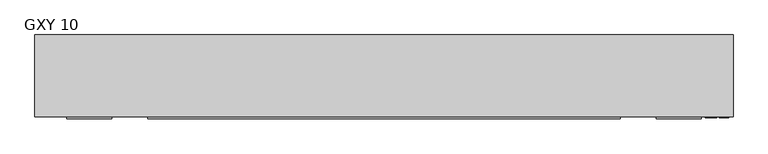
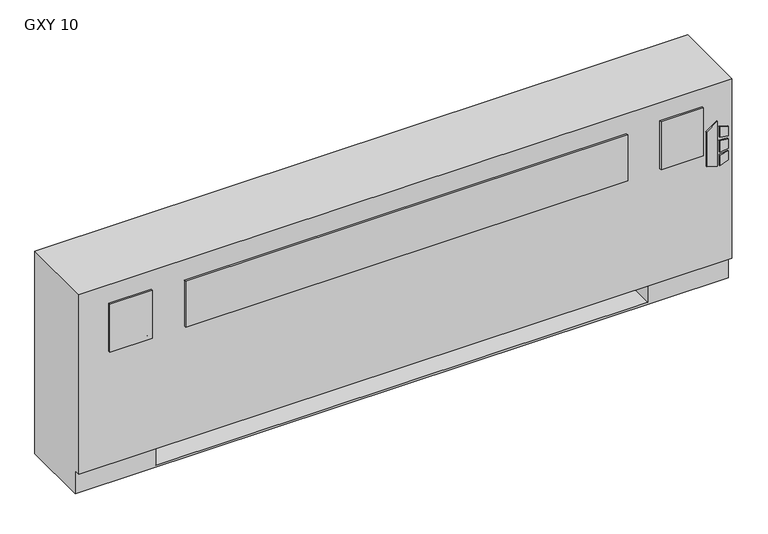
"""IFC4 building model written with IfcOpenShell, lengths in millimetres: proxy geometry, Vertical_Fan_Coil_Unit_-_GXY_-_IEC_-_2-Pipe_FS-FR_LH_2022 : GXY 10."""

import ifcopenshell
import ifcopenshell.guid

model = None  # the IFC model being written
_history = None  # IfcOwnerHistory: only IFC2X3 demands one
_inside = {}  # id of a spatial element -> (the spatial element, [elements in it])
_under = {}  # id of a project, library or spatial element -> (it, [spatial elements below it])
_declared = {}  # id of a project -> (the project, [libraries it declares])
_typed = {}  # id of a type object -> (the type object, [elements of that type])
_made_of = {}  # id of a material, layer set ... -> (it, [elements and type objects made of it])


def new_model(schema):
    """Start an empty IFC model of exactly this schema.

    Asked for "IFC4X3", IfcOpenShell would pick the latest addendum, in which some entities
    have other attributes; the version numbers below select the first issue.
    IFC2X3 requires an IfcOwnerHistory on every rooted entity: one is made here for all.
    """
    global model, _history
    if schema == "IFC4X3":
        model = ifcopenshell.file(schema_version=(4, 3, 0, 0))
    else:
        model = ifcopenshell.file(schema=schema)
    _inside.clear()
    _under.clear()
    _declared.clear()
    _typed.clear()
    _made_of.clear()
    _history = None
    if model.schema == "IFC2X3":
        org = make("IfcOrganization", Name="unknown")
        user = make(
            "IfcPersonAndOrganization",
            ThePerson=make("IfcPerson", FamilyName="unknown"),
            TheOrganization=org,
        )
        app = make(
            "IfcApplication",
            ApplicationDeveloper=org,
            Version="unknown",
            ApplicationFullName="unknown",
            ApplicationIdentifier="unknown",
        )
        _history = make(
            "IfcOwnerHistory",
            OwningUser=user,
            OwningApplication=app,
            ChangeAction="ADDED",
            CreationDate=0,
        )
    return model


def make(cls, **values):
    """One entity of the class cls with the attributes given. An attribute that is None is left unset."""
    return model.create_entity(
        cls, **{name: value for name, value in values.items() if value is not None}
    )


def rooted(cls, **values):
    """An entity with a GlobalId (a new one), such as an element, a storey or a relation."""
    return make(cls, GlobalId=ifcopenshell.guid.new(), OwnerHistory=_history, **values)


def si_unit(unit_type, name, prefix=None):
    """IfcSIUnit, for example si_unit("LENGTHUNIT", "METRE", prefix="MILLI")."""
    return make("IfcSIUnit", UnitType=unit_type, Prefix=prefix, Name=name)


def assignment(units):
    """IfcUnitAssignment: the units of a project."""
    return None if units is None else make("IfcUnitAssignment", Units=units)


def point(xyz):
    """IfcCartesianPoint."""
    return None if xyz is None else make("IfcCartesianPoint", Coordinates=xyz)


def direction(xyz):
    """IfcDirection."""
    return None if xyz is None else make("IfcDirection", DirectionRatios=xyz)


def frame(location, z_axis=None, x_axis=None):
    """IfcAxis2Placement3D, a coordinate frame: its origin and axes. An axis left out is left unset."""
    return make(
        "IfcAxis2Placement3D",
        Location=point(location),
        Axis=direction(z_axis),
        RefDirection=direction(x_axis),
    )


def frame_2d(location, x_axis=None):
    """IfcAxis2Placement2D, a coordinate frame in the plane: its origin and x axis."""
    return make(
        "IfcAxis2Placement2D", Location=point(location), RefDirection=direction(x_axis)
    )


def origin():
    """The frame at (0, 0, 0) with its axes left unset."""
    return frame((0.0, 0.0, 0.0))


def place(relative_to, where):
    """IfcLocalPlacement: puts the frame where relative to a parent placement (None: the world)."""
    return make(
        "IfcLocalPlacement", PlacementRelTo=relative_to, RelativePlacement=where
    )


def context(
    kind, dimensions, precision=None, world=None, true_north=None, identifier=None
):
    """IfcGeometricRepresentationContext, for example the 3D "Model" context."""
    return make(
        "IfcGeometricRepresentationContext",
        ContextIdentifier=identifier,
        ContextType=kind,
        CoordinateSpaceDimension=dimensions,
        Precision=precision,
        WorldCoordinateSystem=world,
        TrueNorth=true_north,
    )


def project(units=None, contexts=None):
    """IfcProject with its units and contexts."""
    return rooted(
        "IfcProject",
        Name="project",
        RepresentationContexts=contexts,
        UnitsInContext=assignment(units),
    )


def spatial(cls, under=None, at=None, **own):
    """A site, building, storey or space (cls), placed at a placement, below another one or the project."""
    s = rooted(cls, ObjectPlacement=at, **own)
    if under is not None:
        _under.setdefault(under.id(), (under, []))[1].append(s)
    return s


def polyline(points):
    """IfcPolyline through the points."""
    return make("IfcPolyline", Points=[point(p) for p in points])


def circle_curve(where, radius):
    """IfcCircle in the frame where."""
    return make("IfcCircle", Position=where, Radius=radius)


def trimmed(basis, trim1, trim2, sense, master):
    """IfcTrimmedCurve: the piece of a basis curve between two trims."""
    return make(
        "IfcTrimmedCurve",
        BasisCurve=basis,
        Trim1=trim1,
        Trim2=trim2,
        SenseAgreement=sense,
        MasterRepresentation=master,
    )


def segment(curve, same_sense, transition):
    """IfcCompositeCurveSegment."""
    return make(
        "IfcCompositeCurveSegment",
        Transition=transition,
        SameSense=same_sense,
        ParentCurve=curve,
    )


def composite_curve(segments, self_intersect=None):
    """IfcCompositeCurve: segments joined end to end."""
    return make("IfcCompositeCurve", Segments=segments, SelfIntersect=self_intersect)


def outline(outer, holes=None, kind="AREA"):
    """IfcArbitraryClosedProfileDef: a profile drawn as a closed curve; with holes, ...WithVoids."""
    if holes is None:
        return make("IfcArbitraryClosedProfileDef", ProfileType=kind, OuterCurve=outer)
    return make(
        "IfcArbitraryProfileDefWithVoids",
        ProfileType=kind,
        OuterCurve=outer,
        InnerCurves=holes,
    )


def extrude(swept, where, along, depth):
    """IfcExtrudedAreaSolid: the profile swept, set in the frame where, extruded along a direction by depth."""
    return make(
        "IfcExtrudedAreaSolid",
        SweptArea=swept,
        Position=where,
        ExtrudedDirection=direction(along),
        Depth=depth,
    )


def shape(context_of_items, identifier, shape_type, items):
    """IfcShapeRepresentation: the items that make up one representation, for example the "Body"."""
    return make(
        "IfcShapeRepresentation",
        ContextOfItems=context_of_items,
        RepresentationIdentifier=identifier,
        RepresentationType=shape_type,
        Items=items,
    )


def source(mapping_origin, context_of_items, identifier, shape_type, items):
    """IfcRepresentationMap: a shape defined once, which mapped items show again and again."""
    return make(
        "IfcRepresentationMap",
        MappingOrigin=mapping_origin,
        MappedRepresentation=shape(context_of_items, identifier, shape_type, items),
    )


def transform(
    local_origin,
    x_axis=None,
    y_axis=None,
    z_axis=None,
    scale=None,
    scale2=None,
    scale3=None,
    uniform=True,
):
    """IfcCartesianTransformationOperator3D, or its non-uniform kind. x_axis, y_axis, z_axis: its Axis1, 2, 3."""
    if uniform:
        return make(
            "IfcCartesianTransformationOperator3D",
            Axis1=direction(x_axis),
            Axis2=direction(y_axis),
            LocalOrigin=point(local_origin),
            Scale=scale,
            Axis3=direction(z_axis),
        )
    return make(
        "IfcCartesianTransformationOperator3DnonUniform",
        Axis1=direction(x_axis),
        Axis2=direction(y_axis),
        LocalOrigin=point(local_origin),
        Scale=scale,
        Axis3=direction(z_axis),
        Scale2=scale2,
        Scale3=scale3,
    )


def mapped(mapping_source, mapping_target):
    """IfcMappedItem: shows the shape of a source again, moved by a transform."""
    return make(
        "IfcMappedItem", MappingSource=mapping_source, MappingTarget=mapping_target
    )


def made_of(thing, what):
    """Note that an element or type object is made of a material, layer set ...; save() writes the relation."""
    if what is not None:
        _made_of.setdefault(what.id(), (what, []))[1].append(thing)
    return thing


def element(
    cls,
    number,
    at=None,
    inside=None,
    cuts=None,
    type_object=None,
    material=None,
    context=None,
    identifier="Body",
    shape_type=None,
    held_by="IfcProductDefinitionShape",
    body=None,
    shapes=None,
    **own,
):
    """One element of the class cls, such as IfcWall. Its Tag is "e" and its number.

    at: its placement. inside: the storey or other place that contains it. cuts: it is an
    opening in that element (IfcRelVoidsElement). A single representation is given by context,
    identifier, shape_type and body (its items); several are given by shapes. held_by: the class
    of the entity that holds the representations. save() writes the other relations.
    """
    e = rooted(cls, Tag="e%d" % number, ObjectPlacement=at, **own)
    if body is not None:
        shapes = [shape(context, identifier, shape_type, body)]
    if shapes is not None:
        e.Representation = make(held_by, Representations=shapes)
    if inside is not None:
        _inside.setdefault(inside.id(), (inside, []))[1].append(e)
    if cuts is not None:
        rooted(
            "IfcRelVoidsElement", RelatingBuildingElement=cuts, RelatedOpeningElement=e
        )
    if type_object is not None:
        _typed.setdefault(type_object.id(), (type_object, []))[1].append(e)
    return made_of(e, material)


def aggregate(whole, parts):
    """IfcRelAggregates: a whole, such as a stair, and the parts it consists of."""
    return rooted("IfcRelAggregates", RelatingObject=whole, RelatedObjects=parts)


def save(model, path):
    """Write the relations noted so far, then the file.

    IfcRelAggregates (storeys below a building ...), IfcRelContainedInSpatialStructure (elements
    in a storey), IfcRelDefinesByType, IfcRelAssociatesMaterial and IfcRelDeclares: one each for
    every whole, place, type object, material and project.
    """
    for whole, parts in _under.values():
        aggregate(whole, parts)
    for where, things in _inside.values():
        rooted(
            "IfcRelContainedInSpatialStructure",
            RelatedElements=things,
            RelatingStructure=where,
        )
    for kind, things in _typed.values():
        rooted("IfcRelDefinesByType", RelatedObjects=things, RelatingType=kind)
    for what, things in _made_of.values():
        rooted("IfcRelAssociatesMaterial", RelatedObjects=things, RelatingMaterial=what)
    for by, libraries in _declared.values():
        rooted("IfcRelDeclares", RelatingContext=by, RelatedDefinitions=libraries)
    model.write(path)


def plane_surface(at):
    """IfcPlane: the flat surface through the origin of the frame at, square to its z axis."""
    return make("IfcPlane", Position=at)


def revolved_surface(curve, axis_point, axis_direction):
    """IfcSurfaceOfRevolution: the curve turned about the line through axis_point along axis_direction."""
    return make(
        "IfcSurfaceOfRevolution",
        SweptCurve=make("IfcArbitraryOpenProfileDef", ProfileType="CURVE", Curve=curve),
        AxisPosition=make("IfcAxis1Placement", Location=point(axis_point), Axis=direction(axis_direction)),
    )


def advanced_brep(points, edges, surfaces, faces):
    """IfcAdvancedBrep: a solid bounded by faces that lie on surfaces and meet in shared edges.

    An edge is (start, end): straight between two places in points (the first is 0);
    or (start, end, curve); or (start, end, curve, False) where it runs against its curve.
    A face is (place in surfaces, loops), or (place, loops, False) where it looks against
    its surface's normal. A loop lists edges by number (the first is 1), with a minus sign
    where the edge is run from its end to its start. The first loop is the outer one.
    """
    corners = [point(p) for p in points]
    vertices = [make("IfcVertexPoint", VertexGeometry=c) for c in corners]
    made = []
    for start, end, *more in edges:
        made.append(
            make(
                "IfcEdgeCurve",
                EdgeStart=vertices[start],
                EdgeEnd=vertices[end],
                EdgeGeometry=more[0] if more else make("IfcPolyline", Points=[corners[start], corners[end]]),
                SameSense=more[1] if len(more) > 1 else True,
            )
        )
    hull = []
    for where, loops, *sense in faces:
        bounds = []
        for j, loop in enumerate(loops):
            ring = [make("IfcOrientedEdge", EdgeElement=made[abs(k) - 1], Orientation=k > 0) for k in loop]
            bounds.append(
                make(
                    "IfcFaceOuterBound" if j == 0 else "IfcFaceBound",
                    Bound=make("IfcEdgeLoop", EdgeList=ring),
                    Orientation=True,
                )
            )
        hull.append(make("IfcAdvancedFace", Bounds=bounds, FaceSurface=surfaces[where], SameSense=sense[0] if sense else True))
    return make("IfcAdvancedBrep", Outer=make("IfcClosedShell", CfsFaces=hull))


def gxy_10_e6496b14(model_context):
    return source(origin(), model_context, "Body", "SolidModel", [
        extrude(outline(polyline([(391.6086829, 1052.5868862), (381.6606126, 1084.7602728), (523.831537, 1084.7602728), (500.8095309, 1052.5868862), (391.6086829, 1052.5868862)])), frame((0.0, 12.7, 0.0), z_axis=(0.0, 1.0, 0.0), x_axis=(0.0, 0.0, 1.0)), (0.0, 0.0, 1.0), 3.175),
        extrude(outline(polyline([(470.6079683, 1091.5186058), (467.4055757, 1117.6), (496.6344168, 1117.6), (504.6988318, 1091.5186058), (470.6079683, 1091.5186058)])), frame((0.0, 12.7, 0.0), z_axis=(0.0, 1.0, 0.0), x_axis=(0.0, 0.0, 1.0)), (0.0, 0.0, 1.0), 3.175),
        extrude(outline(polyline([(418.7444414, 1117.6), (415.0789404, 1091.5186058), (381.6606126, 1091.5186058), (390.2948498, 1117.6), (418.7444414, 1117.6)])), frame((0.0, 12.7, 0.0), z_axis=(0.0, 1.0, 0.0), x_axis=(0.0, 0.0, 1.0)), (0.0, 0.0, 1.0), 3.175),
        extrude(outline(polyline([(458.0596028, 1117.6), (460.3414292, 1091.5186058), (424.4038806, 1091.5186058), (427.1451456, 1117.6), (458.0596028, 1117.6)])), frame((0.0, 12.7, 0.0), z_axis=(0.0, 1.0, 0.0), x_axis=(0.0, 0.0, 1.0)), (0.0, 0.0, 1.0), 3.175),
        extrude(outline(polyline([(-609.6, 9.525), (-736.6, 9.525), (-736.6, 15.875), (-609.6, 15.875), (-609.6, 9.525)])), frame((0.0, 0.0, 431.8), z_axis=(0.0, 0.0, 1.0), x_axis=(1.0, 0.0, 0.0)), (0.0, 0.0, 1.0), 152.4),
        extrude(outline(polyline([(814.3875, 9.525), (-509.5875, 9.525), (-509.5875, 15.875), (814.3875, 15.875), (814.3875, 9.525)])), frame((0.0, 0.0, 431.8), z_axis=(0.0, 0.0, 1.0), x_axis=(1.0, 0.0, 0.0)), (0.0, 0.0, 1.0), 146.05),
        extrude(outline(polyline([(1041.4, 9.525), (914.4, 9.525), (914.4, 15.875), (1041.4, 15.875), (1041.4, 9.525)])), frame((0.0, 0.0, 431.8), z_axis=(0.0, 0.0, 1.0), x_axis=(1.0, 0.0, 0.0)), (0.0, 0.0, 1.0), 152.4),
        extrude(outline(polyline([(889.0, 81.534), (889.0, 223.266), (1009.65, 223.266), (1009.65, 81.534), (889.0, 81.534)])), frame((0.0, 0.0, 327.025), z_axis=(0.0, 0.0, 1.0), x_axis=(1.0, 0.0, 0.0)), (0.0, 0.0, 1.0), 260.35),
        extrude(outline(composite_curve([segment(trimmed(circle_curve(frame_2d((78.9432, 398.5514)), 7.9375), [point((78.9432, 406.4889))], [point((78.9432, 390.6139))], False, "CARTESIAN"), True, "CONTINUOUS"), segment(trimmed(circle_curve(frame_2d((78.9432, 398.5514)), 7.9375), [point((78.9432, 390.6139))], [point((78.9432, 406.4889))], False, "CARTESIAN"), True, "CONTINUOUS")], self_intersect=False)), frame((-635.0, 0.0, 0.0), z_axis=(1.0, 0.0, 0.0), x_axis=(0.0, 1.0, 0.0)), (0.0, 0.0, 1.0), 50.8),
        extrude(outline(composite_curve([segment(trimmed(circle_curve(frame_2d((155.9052, 537.3878)), 7.9375), [point((155.9052, 545.3253))], [point((155.9052, 529.4503))], False, "CARTESIAN"), True, "CONTINUOUS"), segment(trimmed(circle_curve(frame_2d((155.9052, 537.3878)), 7.9375), [point((155.9052, 529.4503))], [point((155.9052, 545.3253))], False, "CARTESIAN"), True, "CONTINUOUS")], self_intersect=False)), frame((-635.0, 0.0, 0.0), z_axis=(1.0, 0.0, 0.0), x_axis=(0.0, 1.0, 0.0)), (0.0, 0.0, 1.0), 50.8),
        advanced_brep(
        [(1130.3, 244.475, 641.35), (-825.5, 244.475, 641.35), (-825.5, 15.875, 641.35), (1130.3, 15.875, 641.35), (-825.5, 244.475, 0.0), (1130.3, 244.475, 0.0), (1130.3, 34.925, 0.0), (-825.5, 34.925, 0.0), (889.0, 244.475, 73.025), (1117.6, 244.475, 73.025), (1117.6, 244.475, 628.65), (889.0, 244.475, 628.65), (889.0, 244.475, 418.0400565), (917.575, 244.475, 418.0400565), (917.575, 244.475, 388.4099435), (889.0, 244.475, 388.4099435), (889.0, 244.475, 290.5125), (917.575, 244.475, 290.5125), (917.575, 244.475, 261.9375), (889.0, 244.475, 261.9375), (889.0, 244.475, 119.0625), (917.575, 244.475, 119.0625), (917.575, 244.475, 90.4875), (889.0, 244.475, 90.4875), (-584.2, 244.475, 628.65), (-812.8, 244.475, 628.65), (-812.8, 244.475, 73.025), (-584.2, 244.475, 73.025), (-584.2, 244.475, 90.4875), (-612.775, 244.475, 90.4875), (-612.775, 244.475, 119.0625), (-584.2, 244.475, 119.0625), (-584.2, 244.475, 261.9375), (-612.775, 244.475, 261.9375), (-612.775, 244.475, 290.5125), (-584.2, 244.475, 290.5125), (-584.2, 244.475, 388.4099435), (-612.775, 244.475, 388.4099435), (-612.775, 244.475, 418.0400565), (-584.2, 244.475, 418.0400565), (907.2626, 244.475, 104.775), (896.1374, 244.475, 104.775), (907.2626, 244.475, 403.225), (896.1374, 244.475, 403.225), (907.2626, 244.475, 276.225), (896.1374, 244.475, 276.225), (-591.3374, 244.475, 104.775), (-602.4626, 244.475, 104.775), (-591.3374, 244.475, 276.225), (-602.4626, 244.475, 276.225), (-591.3374, 244.475, 403.225), (-602.4626, 244.475, 403.225), (-825.5, 34.925, 73.025), (-825.5, 15.875, 73.025), (1130.3, 15.875, 73.025), (1130.3, 34.925, 73.025), (-584.2, 34.925, 73.025), (-584.2, 219.075, 73.025), (889.0, 219.075, 73.025), (889.0, 34.925, 73.025), (889.0, 34.925, 6.35), (-584.2, 34.925, 6.35), (889.0, 41.275, 628.65), (1117.6, 41.275, 628.65), (1117.6, 41.275, 73.025), (889.0, 41.275, 73.025), (-584.2, 41.275, 628.65), (-584.2, 41.275, 73.025), (-812.8, 41.275, 73.025), (-812.8, 41.275, 628.65), (889.0, 219.075, 73.025), (889.0, 238.125, 90.4875), (889.0, 238.125, 119.0625), (889.0, 238.125, 261.9375), (889.0, 238.125, 290.5125), (889.0, 238.125, 388.4099435), (889.0, 238.125, 418.0400565), (-584.2, 219.075, 73.025), (-584.2, 238.125, 418.0400565), (-584.2, 238.125, 388.4099435), (-584.2, 238.125, 290.5125), (-584.2, 238.125, 261.9375), (-584.2, 238.125, 119.0625), (-584.2, 238.125, 90.4875), (-584.2, 219.075, 6.35), (889.0, 219.075, 6.35), (917.575, 238.125, 90.4875), (917.575, 238.125, 119.0625), (896.1374, 238.125, 104.775), (907.2626, 238.125, 104.775), (917.575, 238.125, 261.9375), (917.575, 238.125, 290.5125), (896.1374, 238.125, 276.225), (907.2626, 238.125, 276.225), (917.575, 238.125, 388.4099435), (917.575, 238.125, 418.0400565), (896.1374, 238.125, 403.225), (907.2626, 238.125, 403.225), (-612.775, 238.125, 119.0625), (-612.775, 238.125, 90.4875), (-602.4626, 238.125, 104.775), (-591.3374, 238.125, 104.775), (-612.775, 238.125, 290.5125), (-612.775, 238.125, 261.9375), (-602.4626, 238.125, 276.225), (-591.3374, 238.125, 276.225), (-612.775, 238.125, 418.0400565), (-612.775, 238.125, 388.4099435), (-602.4626, 238.125, 403.225), (-591.3374, 238.125, 403.225)],
        [
            (0, 1),
            (1, 2),
            (2, 3),
            (3, 0),
            (4, 5),
            (5, 6),
            (6, 7),
            (7, 4),
            (0, 5),
            (4, 1),
            (8, 9),
            (9, 10),
            (10, 11),
            (11, 12),
            (12, 13),
            (13, 14),
            (14, 15),
            (15, 16),
            (16, 17),
            (17, 18),
            (18, 19),
            (19, 20),
            (20, 21),
            (21, 22),
            (22, 23),
            (23, 8),
            (24, 25),
            (25, 26),
            (26, 27),
            (27, 28),
            (28, 29),
            (29, 30),
            (30, 31),
            (31, 32),
            (32, 33),
            (33, 34),
            (34, 35),
            (35, 36),
            (36, 37),
            (37, 38),
            (38, 39),
            (39, 24),
            (40, 41, circle_curve(frame((901.7, 244.475, 104.775), z_axis=(0.0, -1.0, 0.0), x_axis=(-1.0, 0.0, 0.0)), 5.5626)),
            (41, 40, circle_curve(frame((901.7, 244.475, 104.775), z_axis=(0.0, -1.0, 0.0), x_axis=(-1.0, 0.0, 0.0)), 5.5626)),
            (42, 43, circle_curve(frame((901.7, 244.475, 403.225), z_axis=(0.0, -1.0, 0.0), x_axis=(-1.0, 0.0, 0.0)), 5.5626)),
            (43, 42, circle_curve(frame((901.7, 244.475, 403.225), z_axis=(0.0, -1.0, 0.0), x_axis=(-1.0, 0.0, 0.0)), 5.5626)),
            (44, 45, circle_curve(frame((901.7, 244.475, 276.225), z_axis=(0.0, -1.0, 0.0), x_axis=(-1.0, 0.0, 0.0)), 5.5626)),
            (45, 44, circle_curve(frame((901.7, 244.475, 276.225), z_axis=(0.0, -1.0, 0.0), x_axis=(-1.0, 0.0, 0.0)), 5.5626)),
            (46, 47, circle_curve(frame((-596.9, 244.475, 104.775), z_axis=(0.0, -1.0, 0.0), x_axis=(-1.0, 0.0, 0.0)), 5.5626)),
            (47, 46, circle_curve(frame((-596.9, 244.475, 104.775), z_axis=(0.0, -1.0, 0.0), x_axis=(-1.0, 0.0, 0.0)), 5.5626)),
            (48, 49, circle_curve(frame((-596.9, 244.475, 276.225), z_axis=(0.0, -1.0, 0.0), x_axis=(-1.0, 0.0, 0.0)), 5.5626)),
            (49, 48, circle_curve(frame((-596.9, 244.475, 276.225), z_axis=(0.0, -1.0, 0.0), x_axis=(-1.0, 0.0, 0.0)), 5.5626)),
            (50, 51, circle_curve(frame((-596.9, 244.475, 403.225), z_axis=(0.0, -1.0, 0.0), x_axis=(-1.0, 0.0, 0.0)), 5.5626)),
            (51, 50, circle_curve(frame((-596.9, 244.475, 403.225), z_axis=(0.0, -1.0, 0.0), x_axis=(-1.0, 0.0, 0.0)), 5.5626)),
            (7, 52),
            (52, 53),
            (53, 2),
            (53, 54),
            (54, 3),
            (54, 55),
            (55, 6),
            (52, 56),
            (56, 57),
            (57, 58),
            (58, 59),
            (59, 55),
            (59, 60),
            (60, 61),
            (61, 56),
            (62, 63),
            (63, 64),
            (64, 65),
            (65, 62),
            (66, 67),
            (67, 68),
            (68, 69),
            (69, 66),
            (65, 70),
            (70, 8),
            (23, 71),
            (71, 72),
            (72, 20),
            (19, 73),
            (73, 74),
            (74, 16),
            (15, 75),
            (75, 76),
            (76, 12),
            (11, 62),
            (64, 9),
            (63, 10),
            (69, 25),
            (24, 66),
            (68, 26),
            (67, 77),
            (77, 27),
            (39, 78),
            (78, 79),
            (79, 36),
            (35, 80),
            (80, 81),
            (81, 32),
            (31, 82),
            (82, 83),
            (83, 28),
            (57, 84),
            (84, 85),
            (85, 58),
            (85, 60),
            (84, 61),
            (71, 86),
            (86, 87),
            (87, 72),
            (88, 89, circle_curve(frame((901.7, 238.125, 104.775), z_axis=(0.0, 1.0, 0.0), x_axis=(-1.0, 0.0, 0.0)), 5.5626)),
            (89, 88, circle_curve(frame((901.7, 238.125, 104.775), z_axis=(0.0, 1.0, 0.0), x_axis=(-1.0, 0.0, 0.0)), 5.5626)),
            (73, 90),
            (90, 91),
            (91, 74),
            (92, 93, circle_curve(frame((901.7, 238.125, 276.225), z_axis=(0.0, 1.0, 0.0), x_axis=(-1.0, 0.0, 0.0)), 5.5626)),
            (93, 92, circle_curve(frame((901.7, 238.125, 276.225), z_axis=(0.0, 1.0, 0.0), x_axis=(-1.0, 0.0, 0.0)), 5.5626)),
            (75, 94),
            (94, 95),
            (95, 76),
            (96, 97, circle_curve(frame((901.7, 238.125, 403.225), z_axis=(0.0, 1.0, 0.0), x_axis=(-1.0, 0.0, 0.0)), 5.5626)),
            (97, 96, circle_curve(frame((901.7, 238.125, 403.225), z_axis=(0.0, 1.0, 0.0), x_axis=(-1.0, 0.0, 0.0)), 5.5626)),
            (98, 99),
            (99, 83),
            (82, 98),
            (100, 101, circle_curve(frame((-596.9, 238.125, 104.775), z_axis=(0.0, 1.0, 0.0), x_axis=(-1.0, 0.0, 0.0)), 5.5626)),
            (101, 100, circle_curve(frame((-596.9, 238.125, 104.775), z_axis=(0.0, 1.0, 0.0), x_axis=(-1.0, 0.0, 0.0)), 5.5626)),
            (102, 103),
            (103, 81),
            (80, 102),
            (104, 105, circle_curve(frame((-596.9, 238.125, 276.225), z_axis=(0.0, 1.0, 0.0), x_axis=(-1.0, 0.0, 0.0)), 5.5626)),
            (105, 104, circle_curve(frame((-596.9, 238.125, 276.225), z_axis=(0.0, 1.0, 0.0), x_axis=(-1.0, 0.0, 0.0)), 5.5626)),
            (106, 107),
            (107, 79),
            (78, 106),
            (108, 109, circle_curve(frame((-596.9, 238.125, 403.225), z_axis=(0.0, 1.0, 0.0), x_axis=(-1.0, 0.0, 0.0)), 5.5626)),
            (109, 108, circle_curve(frame((-596.9, 238.125, 403.225), z_axis=(0.0, 1.0, 0.0), x_axis=(-1.0, 0.0, 0.0)), 5.5626)),
            (87, 21),
            (86, 22),
            (91, 17),
            (90, 18),
            (95, 13),
            (94, 14),
            (30, 98),
            (99, 29),
            (34, 102),
            (103, 33),
            (38, 106),
            (107, 37),
            (88, 41),
            (40, 89),
            (96, 43),
            (42, 97),
            (92, 45),
            (44, 93),
            (100, 47),
            (46, 101),
            (104, 49),
            (48, 105),
            (108, 51),
            (50, 109),
        ],
        [
            plane_surface(frame((-825.5, 244.475, 641.35), z_axis=(0.0, 0.0, 1.0), x_axis=(-1.0, 0.0, 0.0))),
            plane_surface(frame((-825.5, 244.475, 0.0), z_axis=(0.0, 0.0, -1.0), x_axis=(1.0, 0.0, 0.0))),
            plane_surface(frame((1130.3, 244.475, 641.35), z_axis=(0.0, 1.0, 0.0), x_axis=(0.0, 0.0, -1.0))),
            plane_surface(frame((-825.5, 244.475, 641.35), z_axis=(-1.0, 0.0, 0.0), x_axis=(0.0, 0.0, -1.0))),
            plane_surface(frame((-825.5, 15.875, 641.35), z_axis=(0.0, -1.0, 0.0), x_axis=(0.0, 0.0, -1.0))),
            plane_surface(frame((1130.3, 15.875, 641.35), z_axis=(1.0, 0.0, 0.0), x_axis=(0.0, 0.0, -1.0))),
            plane_surface(frame((-825.5, 15.875, 73.025), z_axis=(0.0, 0.0, -1.0), x_axis=(1.0, 0.0, 0.0))),
            plane_surface(frame((-825.5, 34.925, 73.025), z_axis=(0.0, -1.0, 0.0), x_axis=(1.0, 0.0, 0.0))),
            plane_surface(frame((889.0, 41.275, 628.65), z_axis=(0.0, 1.0, 0.0), x_axis=(0.0, 0.0, -1.0))),
            plane_surface(frame((889.0, 41.275, 628.65), z_axis=(1.0, 0.0, 0.0), x_axis=(0.0, 1.0, 0.0))),
            plane_surface(frame((889.0, 41.275, 73.025), z_axis=(0.0, 0.0, 1.0), x_axis=(0.0, 1.0, 0.0))),
            plane_surface(frame((1117.6, 41.275, 73.025), z_axis=(-1.0, 0.0, 0.0), x_axis=(0.0, 1.0, 0.0))),
            plane_surface(frame((1117.6, 41.275, 628.65), z_axis=(0.0, 0.0, -1.0), x_axis=(0.0, 1.0, 0.0))),
            plane_surface(frame((-584.2, 41.275, 628.65), z_axis=(0.0, 0.0, -1.0), x_axis=(0.0, 1.0, 0.0))),
            plane_surface(frame((-812.8, 41.275, 628.65), z_axis=(1.0, 0.0, 0.0), x_axis=(0.0, 1.0, 0.0))),
            plane_surface(frame((-812.8, 41.275, 73.025), z_axis=(0.0, 0.0, 1.0), x_axis=(0.0, 1.0, 0.0))),
            plane_surface(frame((-584.2, 41.275, 73.025), z_axis=(-1.0, 0.0, 0.0), x_axis=(0.0, 1.0, 0.0))),
            plane_surface(frame((889.0, 219.075, 73.025), z_axis=(0.0, -1.0, 0.0), x_axis=(0.0, 0.0, -1.0))),
            plane_surface(frame((889.0, 219.075, 73.025), z_axis=(-1.0, 0.0, 0.0), x_axis=(0.0, -1.0, 0.0))),
            plane_surface(frame((889.0, 219.075, 6.35), z_axis=(0.0, 0.0, 1.0), x_axis=(0.0, -1.0, 0.0))),
            plane_surface(frame((-584.2, 219.075, 6.35), z_axis=(1.0, 0.0, 0.0), x_axis=(0.0, -1.0, 0.0))),
            plane_surface(frame((917.575, 238.125, 119.0625), z_axis=(0.0, -1.0, 0.0), x_axis=(-1.0, 0.0, 0.0))),
            plane_surface(frame((889.0, 244.475, 119.0625), z_axis=(0.0, 0.0, 1.0), x_axis=(0.0, -1.0, 0.0))),
            plane_surface(frame((917.575, 244.475, 119.0625), z_axis=(1.0, 0.0, 0.0), x_axis=(0.0, -1.0, 0.0))),
            plane_surface(frame((917.575, 244.475, 90.4875), z_axis=(0.0, 0.0, -1.0), x_axis=(0.0, -1.0, 0.0))),
            plane_surface(frame((889.0, 244.475, 290.5125), z_axis=(0.0, 0.0, 1.0), x_axis=(0.0, -1.0, 0.0))),
            plane_surface(frame((917.575, 244.475, 290.5125), z_axis=(1.0, 0.0, 0.0), x_axis=(0.0, -1.0, 0.0))),
            plane_surface(frame((917.575, 244.475, 261.9375), z_axis=(0.0, 0.0, -1.0), x_axis=(0.0, -1.0, 0.0))),
            plane_surface(frame((889.0, 244.475, 418.0400565), z_axis=(0.0, 0.0, 1.0), x_axis=(0.0, -1.0, 0.0))),
            plane_surface(frame((917.575, 244.475, 418.0400565), z_axis=(1.0, 0.0, 0.0), x_axis=(0.0, -1.0, 0.0))),
            plane_surface(frame((917.575, 244.475, 388.4099435), z_axis=(0.0, 0.0, -1.0), x_axis=(0.0, -1.0, 0.0))),
            plane_surface(frame((-612.775, 244.475, 119.0625), z_axis=(0.0, 0.0, 1.0), x_axis=(0.0, -1.0, 0.0))),
            plane_surface(frame((-584.2, 244.475, 90.4875), z_axis=(0.0, 0.0, -1.0), x_axis=(0.0, -1.0, 0.0))),
            plane_surface(frame((-612.775, 244.475, 90.4875), z_axis=(-1.0, 0.0, 0.0), x_axis=(0.0, -1.0, 0.0))),
            plane_surface(frame((-612.775, 244.475, 290.5125), z_axis=(0.0, 0.0, 1.0), x_axis=(0.0, -1.0, 0.0))),
            plane_surface(frame((-584.2, 244.475, 261.9375), z_axis=(0.0, 0.0, -1.0), x_axis=(0.0, -1.0, 0.0))),
            plane_surface(frame((-612.775, 244.475, 261.9375), z_axis=(-1.0, 0.0, 0.0), x_axis=(0.0, -1.0, 0.0))),
            plane_surface(frame((-612.775, 244.475, 418.0400565), z_axis=(0.0, 0.0, 1.0), x_axis=(0.0, -1.0, 0.0))),
            plane_surface(frame((-584.2, 244.475, 388.4099435), z_axis=(0.0, 0.0, -1.0), x_axis=(0.0, -1.0, 0.0))),
            plane_surface(frame((-612.775, 244.475, 388.4099435), z_axis=(-1.0, 0.0, 0.0), x_axis=(0.0, -1.0, 0.0))),
            revolved_surface(polyline([(896.1374000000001, 238.125, 104.775), (896.1374000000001, 244.475, 104.775)]), (901.7, 244.475, 104.775), (0.0, -1.0, 0.0)),
            revolved_surface(polyline([(896.1374000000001, 238.125, 403.225), (896.1374000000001, 244.475, 403.225)]), (901.7, 244.475, 403.225), (0.0, -1.0, 0.0)),
            revolved_surface(polyline([(896.1374000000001, 238.125, 276.225), (896.1374000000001, 244.475, 276.225)]), (901.7, 244.475, 276.225), (0.0, -1.0, 0.0)),
            revolved_surface(polyline([(-602.4626, 238.125, 104.775), (-602.4626, 244.475, 104.775)]), (-596.9, 244.475, 104.775), (0.0, -1.0, 0.0)),
            revolved_surface(polyline([(-602.4626, 238.125, 276.225), (-602.4626, 244.475, 276.225)]), (-596.9, 244.475, 276.225), (0.0, -1.0, 0.0)),
            revolved_surface(polyline([(-602.4626, 238.125, 403.225), (-602.4626, 244.475, 403.225)]), (-596.9, 244.475, 403.225), (0.0, -1.0, 0.0)),
        ],
        [
            (0, [[1, 2, 3, 4]]),
            (1, [[5, 6, 7, 8]]),
            (2, [[-1, 9, -5, 10], [11, 12, 13, 14, 15, 16, 17, 18, 19, 20, 21, 22, 23, 24, 25, 26], [27, 28, 29, 30, 31, 32, 33, 34, 35, 36, 37, 38, 39, 40, 41, 42], [43, 44], [45, 46], [47, 48], [49, 50], [51, 52], [53, 54]]),
            (3, [[-2, -10, -8, 55, 56, 57]]),
            (4, [[-3, -57, 58, 59]]),
            (5, [[-4, -59, 60, 61, -6, -9]]),
            (6, [[-56, 62, 63, 64, 65, 66, -60, -58]]),
            (7, [[-7, -61, -66, 67, 68, 69, -62, -55]]),
            (8, [[70, 71, 72, 73]]),
            (8, [[74, 75, 76, 77]]),
            (9, [[-73, 78, 79, -26, 80, 81, 82, -22, 83, 84, 85, -18, 86, 87, 88, -14, 89]]),
            (10, [[-72, 90, -11, -79, -78]]),
            (11, [[-71, 91, -12, -90]]),
            (12, [[-70, -89, -13, -91]]),
            (13, [[-77, 92, -27, 93]]),
            (14, [[-76, 94, -28, -92]]),
            (15, [[-75, 95, 96, -29, -94]]),
            (16, [[-74, -93, -42, 97, 98, 99, -38, 100, 101, 102, -34, 103, 104, 105, -30, -96, -95]]),
            (17, [[-64, 106, 107, 108]]),
            (18, [[-108, 109, -67, -65]]),
            (19, [[-107, 110, -68, -109]]),
            (20, [[-106, -63, -69, -110]]),
            (21, [[111, 112, 113, -81], [114, 115]]),
            (21, [[116, 117, 118, -84], [119, 120]]),
            (21, [[121, 122, 123, -87], [124, 125]]),
            (21, [[126, 127, -104, 128], [129, 130]]),
            (21, [[131, 132, -101, 133], [134, 135]]),
            (21, [[136, 137, -98, 138], [139, 140]]),
            (22, [[-113, 141, -23, -82]]),
            (23, [[-112, 142, -24, -141]]),
            (24, [[-111, -80, -25, -142]]),
            (25, [[-118, 143, -19, -85]]),
            (26, [[-117, 144, -20, -143]]),
            (27, [[-116, -83, -21, -144]]),
            (28, [[-123, 145, -15, -88]]),
            (29, [[-122, 146, -16, -145]]),
            (30, [[-121, -86, -17, -146]]),
            (31, [[-128, -103, -33, 147]]),
            (32, [[-127, 148, -31, -105]]),
            (33, [[-126, -147, -32, -148]]),
            (34, [[-133, -100, -37, 149]]),
            (35, [[-132, 150, -35, -102]]),
            (36, [[-131, -149, -36, -150]]),
            (37, [[-138, -97, -41, 151]]),
            (38, [[-137, 152, -39, -99]]),
            (39, [[-136, -151, -40, -152]]),
            (40, [[153, -43, 154, -114]]),
            (40, [[-153, -115, -154, -44]]),
            (41, [[155, -45, 156, -124]]),
            (41, [[-155, -125, -156, -46]]),
            (42, [[157, -47, 158, -119]]),
            (42, [[-157, -120, -158, -48]]),
            (43, [[159, -49, 160, -129]]),
            (43, [[-159, -130, -160, -50]]),
            (44, [[161, -51, 162, -134]]),
            (44, [[-161, -135, -162, -52]]),
            (45, [[163, -53, 164, -139]]),
            (45, [[-163, -140, -164, -54]]),
        ],
    ),
    ])


if __name__ == "__main__":
    model = new_model("IFC4")
    model_context = context("Model", 3, world=origin())
    ifc_project = project(units=[si_unit("LENGTHUNIT", "METRE", prefix="MILLI")], contexts=[model_context])
    site = spatial("IfcSite", under=ifc_project)
    building = spatial("IfcBuilding", under=site)
    placement = place(None, origin())
    gxy_10_shape = gxy_10_e6496b14(model_context)
    element("IfcBuildingElementProxy", 1, Name="Vertical_Fan_Coil_Unit_-_GXY_-_IEC_-_2-Pipe_FS-FR_LH_2022 : GXY 10", ObjectType="Vertical_Fan_Coil_Unit_-_GXY_-_IEC_-_2-Pipe_FS-FR_LH_2022 : GXY 10", at=placement, inside=building, context=model_context, shape_type="MappedRepresentation", body=[
        mapped(gxy_10_shape, transform((0.0, 0.0, 0.0), x_axis=(1.0, 0.0, 0.0), y_axis=(0.0, 1.0, 0.0), z_axis=(0.0, 0.0, 1.0))),
    ])
    save(model, "model.ifc")
